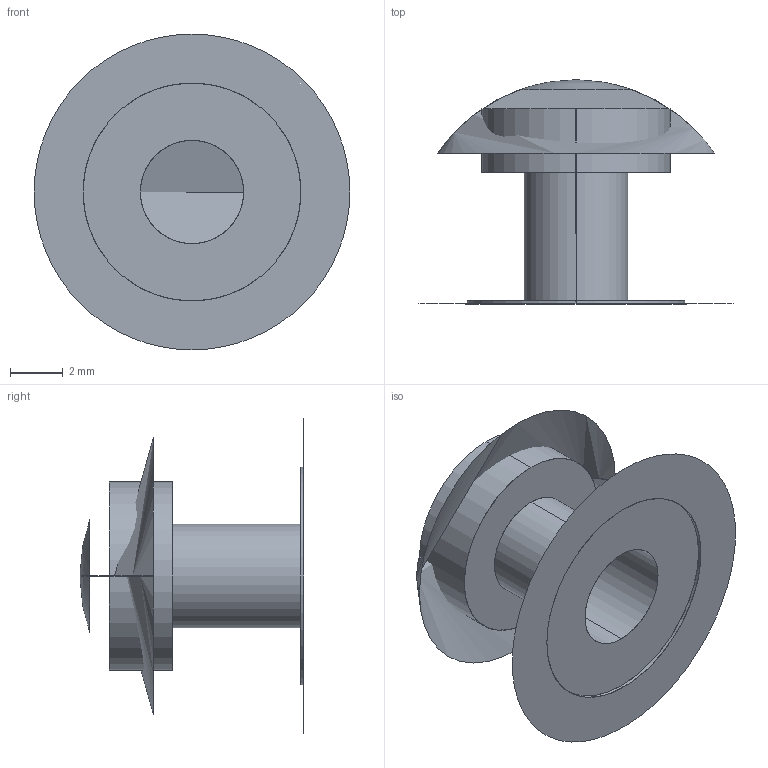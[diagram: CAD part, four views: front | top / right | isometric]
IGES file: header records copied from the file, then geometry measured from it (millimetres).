
Start section: SolidWorks IGES file using analytic representation for surfaces
Global section: file name: D:\Solid_parts\MECHeDESIGN\Bal-Tec\Catalog 105-A\Distribution\IGES\500-TBR-CB.IGS; native system: SolidWorks 2005 by SolidWorks Corporation; preprocessor: SolidWorks 2005 by SolidWorks Corporation; author: rvillegas; date: 061205.184919; units: inch
Bounding box: 11.96 x 8.48 x 11.96 mm (x, y, z)
Surface area: 371.1 mm2 (no closed solid volume)
Topology: 0 solids, 0 shells, 11 faces, 228 edges, 228 vertices
Faces by surface type: revolution 8, bspline 3
